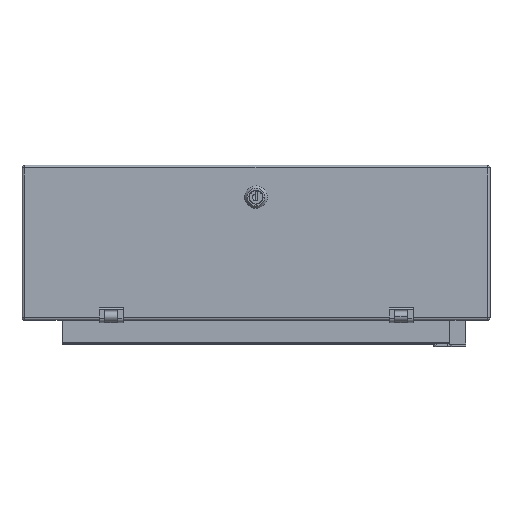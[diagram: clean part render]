
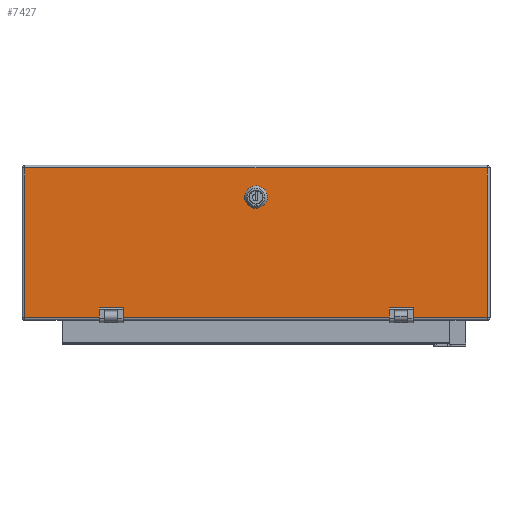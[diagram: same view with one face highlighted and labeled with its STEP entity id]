
A CAD part, top view. The second image highlights one B-rep face of the part: STEP entity #7427.
In plain terms, the highlighted planar face has unit normal (0, 0, 1).
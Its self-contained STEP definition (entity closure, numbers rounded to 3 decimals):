
#7427=ADVANCED_FACE('',(#15030,#15032),#15034,.T.);
#15030=FACE_BOUND('',#15031,.T.);
#15031=EDGE_LOOP('',(#21061,#21062,#21063,#21064,#21065,#21066,#21067,#21068,#21069,
#21070,#21071,#21072));
#15032=FACE_BOUND('',#15033,.T.);
#15033=EDGE_LOOP('',(#21073,#21074,#21075,#21076,#21077,#21078,#21079,#21080));
#15034=PLANE('',#15035);
#15035=AXIS2_PLACEMENT_3D('',#15036,#15037,#15038);
#15036=CARTESIAN_POINT('',(-292.5,-97.,2.));
#15037=DIRECTION('',(0.,0.,1.));
#15038=DIRECTION('',(1.,0.,0.));
#21061=ORIENTED_EDGE('',*,*,#25932,.F.);
#21062=ORIENTED_EDGE('',*,*,#25933,.T.);
#21063=ORIENTED_EDGE('',*,*,#25934,.T.);
#21064=ORIENTED_EDGE('',*,*,#25935,.T.);
#21065=ORIENTED_EDGE('',*,*,#25936,.T.);
#21066=ORIENTED_EDGE('',*,*,#25937,.T.);
#21067=ORIENTED_EDGE('',*,*,#25938,.F.);
#21068=ORIENTED_EDGE('',*,*,#25939,.F.);
#21069=ORIENTED_EDGE('',*,*,#25940,.F.);
#21070=ORIENTED_EDGE('',*,*,#25941,.T.);
#21071=ORIENTED_EDGE('',*,*,#25942,.F.);
#21072=ORIENTED_EDGE('',*,*,#25943,.F.);
#21073=ORIENTED_EDGE('',*,*,#25944,.F.);
#21074=ORIENTED_EDGE('',*,*,#25945,.F.);
#21075=ORIENTED_EDGE('',*,*,#25946,.F.);
#21076=ORIENTED_EDGE('',*,*,#25947,.F.);
#21077=ORIENTED_EDGE('',*,*,#25948,.F.);
#21078=ORIENTED_EDGE('',*,*,#25949,.F.);
#21079=ORIENTED_EDGE('',*,*,#25950,.F.);
#21080=ORIENTED_EDGE('',*,*,#25951,.F.);
#25932=EDGE_CURVE('',#30150,#30151,#30152,.T.);
#25933=EDGE_CURVE('',#30150,#30153,#30154,.T.);
#25934=EDGE_CURVE('',#30153,#30155,#30156,.T.);
#25935=EDGE_CURVE('',#30155,#30157,#30158,.T.);
#25936=EDGE_CURVE('',#30157,#30159,#30160,.T.);
#25937=EDGE_CURVE('',#30159,#30161,#30162,.T.);
#25938=EDGE_CURVE('',#30163,#30161,#30164,.T.);
#25939=EDGE_CURVE('',#30165,#30163,#30166,.T.);
#25940=EDGE_CURVE('',#30167,#30165,#30168,.T.);
#25941=EDGE_CURVE('',#30167,#30169,#30170,.T.);
#25942=EDGE_CURVE('',#30171,#30169,#30172,.T.);
#25943=EDGE_CURVE('',#30151,#30171,#30173,.T.);
#25944=EDGE_CURVE('',#30174,#30175,#30176,.T.);
#25945=EDGE_CURVE('',#30177,#30174,#30178,.T.);
#25946=EDGE_CURVE('',#30179,#30177,#30180,.T.);
#25947=EDGE_CURVE('',#30181,#30179,#30182,.T.);
#25948=EDGE_CURVE('',#30183,#30181,#30184,.T.);
#25949=EDGE_CURVE('',#30185,#30183,#30186,.T.);
#25950=EDGE_CURVE('',#30187,#30185,#30188,.T.);
#25951=EDGE_CURVE('',#30175,#30187,#30189,.T.);
#30150=VERTEX_POINT('',#44278);
#30151=VERTEX_POINT('',#44279);
#30152=LINE('',#44280,#44281);
#30153=VERTEX_POINT('',#44283);
#30154=LINE('',#44284,#44285);
#30155=VERTEX_POINT('',#44287);
#30156=LINE('',#44288,#44289);
#30157=VERTEX_POINT('',#44291);
#30158=LINE('',#44292,#44293);
#30159=VERTEX_POINT('',#44295);
#30160=LINE('',#44296,#44297);
#30161=VERTEX_POINT('',#44299);
#30162=LINE('',#44300,#44301);
#30163=VERTEX_POINT('',#44303);
#30164=LINE('',#44304,#44305);
#30165=VERTEX_POINT('',#44307);
#30166=LINE('',#44308,#44309);
#30167=VERTEX_POINT('',#44311);
#30168=LINE('',#44312,#44313);
#30169=VERTEX_POINT('',#44315);
#30170=LINE('',#44316,#44317);
#30171=VERTEX_POINT('',#44319);
#30172=LINE('',#44320,#44321);
#30173=LINE('',#44323,#44324);
#30174=VERTEX_POINT('',#44326);
#30175=VERTEX_POINT('',#44327);
#30176=CIRCLE('',#44328,11.5);
#30177=VERTEX_POINT('',#44332);
#30178=LINE('',#44333,#44334);
#30179=VERTEX_POINT('',#44336);
#30180=CIRCLE('',#44337,11.5);
#30181=VERTEX_POINT('',#44341);
#30182=LINE('',#44342,#44343);
#30183=VERTEX_POINT('',#44345);
#30184=CIRCLE('',#44346,11.5);
#30185=VERTEX_POINT('',#44350);
#30186=LINE('',#44351,#44352);
#30187=VERTEX_POINT('',#44354);
#30188=CIRCLE('',#44355,11.5);
#30189=LINE('',#44359,#44360);
#44278=CARTESIAN_POINT('',(192.5,-93.5,2.));
#44279=CARTESIAN_POINT('',(192.5,-83.,2.));
#44280=CARTESIAN_POINT('',(192.5,-93.5,2.));
#44281=VECTOR('',#44282,1.);
#44282=DIRECTION('',(0.,1.,0.));
#44283=CARTESIAN_POINT('',(289.,-93.5,2.));
#44284=CARTESIAN_POINT('',(192.5,-93.5,2.));
#44285=VECTOR('',#44286,1.);
#44286=DIRECTION('',(1.,0.,0.));
#44287=CARTESIAN_POINT('',(289.,93.5,2.));
#44288=CARTESIAN_POINT('',(289.,-93.5,2.));
#44289=VECTOR('',#44290,1.);
#44290=DIRECTION('',(0.,1.,0.));
#44291=CARTESIAN_POINT('',(-289.,93.5,2.));
#44292=CARTESIAN_POINT('',(289.,93.5,2.));
#44293=VECTOR('',#44294,1.);
#44294=DIRECTION('',(-1.,0.,0.));
#44295=CARTESIAN_POINT('',(-289.,-93.5,2.));
#44296=CARTESIAN_POINT('',(-289.,93.5,2.));
#44297=VECTOR('',#44298,1.);
#44298=DIRECTION('',(0.,-1.,0.));
#44299=CARTESIAN_POINT('',(-192.5,-93.5,2.));
#44300=CARTESIAN_POINT('',(-289.,-93.5,2.));
#44301=VECTOR('',#44302,1.);
#44302=DIRECTION('',(1.,0.,0.));
#44303=CARTESIAN_POINT('',(-192.5,-83.,2.));
#44304=CARTESIAN_POINT('',(-192.5,-83.,2.));
#44305=VECTOR('',#44306,1.);
#44306=DIRECTION('',(0.,-1.,0.));
#44307=CARTESIAN_POINT('',(-170.,-83.,2.));
#44308=CARTESIAN_POINT('',(-170.,-83.,2.));
#44309=VECTOR('',#44310,1.);
#44310=DIRECTION('',(-1.,0.,0.));
#44311=CARTESIAN_POINT('',(-170.,-93.5,2.));
#44312=CARTESIAN_POINT('',(-170.,-93.5,2.));
#44313=VECTOR('',#44314,1.);
#44314=DIRECTION('',(0.,1.,0.));
#44315=CARTESIAN_POINT('',(170.,-93.5,2.));
#44316=CARTESIAN_POINT('',(-170.,-93.5,2.));
#44317=VECTOR('',#44318,1.);
#44318=DIRECTION('',(1.,0.,0.));
#44319=CARTESIAN_POINT('',(170.,-83.,2.));
#44320=CARTESIAN_POINT('',(170.,-83.,2.));
#44321=VECTOR('',#44322,1.);
#44322=DIRECTION('',(0.,-1.,0.));
#44323=CARTESIAN_POINT('',(192.5,-83.,2.));
#44324=VECTOR('',#44325,1.);
#44325=DIRECTION('',(-1.,0.,0.));
#44326=CARTESIAN_POINT('',(-5.499,67.1,2.));
#44327=CARTESIAN_POINT('',(-10.1,62.499,2.));
#44328=AXIS2_PLACEMENT_3D('',#44329,#44330,#44331);
#44329=CARTESIAN_POINT('',(0.,57.,2.));
#44330=DIRECTION('',(0.,0.,1.));
#44331=DIRECTION('',(-0.478,0.878,0.));
#44332=CARTESIAN_POINT('',(5.499,67.1,2.));
#44333=CARTESIAN_POINT('',(5.499,67.1,2.));
#44334=VECTOR('',#44335,1.);
#44335=DIRECTION('',(-1.,0.,0.));
#44336=CARTESIAN_POINT('',(10.1,62.499,2.));
#44337=AXIS2_PLACEMENT_3D('',#44338,#44339,#44340);
#44338=CARTESIAN_POINT('',(0.,57.,2.));
#44339=DIRECTION('',(0.,0.,1.));
#44340=DIRECTION('',(0.878,0.478,0.));
#44341=CARTESIAN_POINT('',(10.1,51.501,2.));
#44342=CARTESIAN_POINT('',(10.1,51.501,2.));
#44343=VECTOR('',#44344,1.);
#44344=DIRECTION('',(0.,1.,0.));
#44345=CARTESIAN_POINT('',(5.499,46.9,2.));
#44346=AXIS2_PLACEMENT_3D('',#44347,#44348,#44349);
#44347=CARTESIAN_POINT('',(0.,57.,2.));
#44348=DIRECTION('',(0.,0.,1.));
#44349=DIRECTION('',(0.478,-0.878,0.));
#44350=CARTESIAN_POINT('',(-5.499,46.9,2.));
#44351=CARTESIAN_POINT('',(-5.499,46.9,2.));
#44352=VECTOR('',#44353,1.);
#44353=DIRECTION('',(1.,0.,0.));
#44354=CARTESIAN_POINT('',(-10.1,51.501,2.));
#44355=AXIS2_PLACEMENT_3D('',#44356,#44357,#44358);
#44356=CARTESIAN_POINT('',(0.,57.,2.));
#44357=DIRECTION('',(0.,0.,1.));
#44358=DIRECTION('',(-0.878,-0.478,0.));
#44359=CARTESIAN_POINT('',(-10.1,62.499,2.));
#44360=VECTOR('',#44361,1.);
#44361=DIRECTION('',(0.,-1.,0.));
